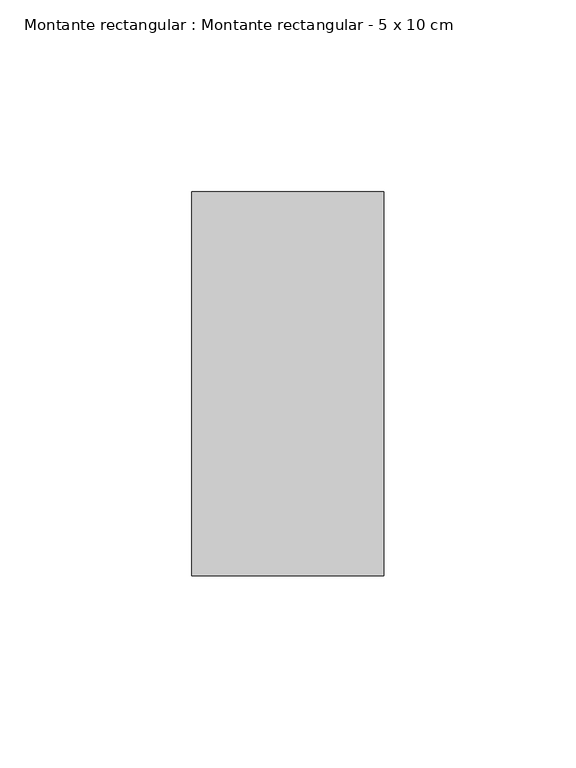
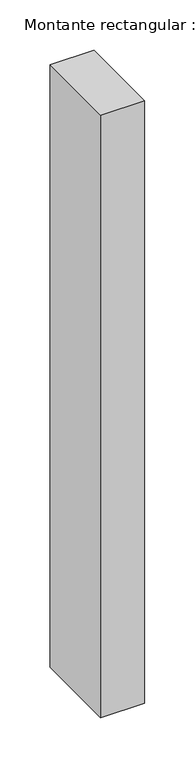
"""IFC4 building model written with IfcOpenShell, lengths in millimetres: member geometry, Montante rectangular : Montante rectangular - 5 x 10 cm."""

from ifc_helpers import new_model, si_unit, frame, origin, place, context, project, spatial, polyline, outline, extrude, source, transform, mapped, element, save


def montante_rectangular_montante_rectangular_5_x_10_cm_5f7dc4e6(model_context):
    return source(origin(), model_context, "Body", "SweptSolid", [
        extrude(outline(polyline([(25.0, 50.0), (25.0, -50.0), (-25.0, -50.0), (-25.0, 50.0), (25.0, 50.0)])), frame((0.0, 0.0, -728.8396072), z_axis=(0.0, 0.0, 1.0), x_axis=(1.0, 0.0, 0.0)), (0.0, 0.0, 1.0), 728.8396072),
    ])


if __name__ == "__main__":
    model = new_model("IFC4")
    model_context = context("Model", 3, world=origin())
    ifc_project = project(units=[si_unit("LENGTHUNIT", "METRE", prefix="MILLI")], contexts=[model_context])
    site = spatial("IfcSite", under=ifc_project)
    building = spatial("IfcBuilding", under=site)
    placement = place(None, origin())
    montante_rectangular_montante_rectangular_5_x_10_cm_shape = montante_rectangular_montante_rectangular_5_x_10_cm_5f7dc4e6(model_context)
    element("IfcMember", 1, ObjectType="Montante rectangular : Montante rectangular - 5 x 10 cm", at=placement, inside=building, context=model_context, shape_type="MappedRepresentation", body=[
        mapped(montante_rectangular_montante_rectangular_5_x_10_cm_shape, transform((0.0, 0.0, 0.0), x_axis=(1.0, 0.0, 0.0), y_axis=(0.0, 1.0, 0.0), z_axis=(0.0, 0.0, 1.0))),
    ])
    save(model, "model.ifc")
